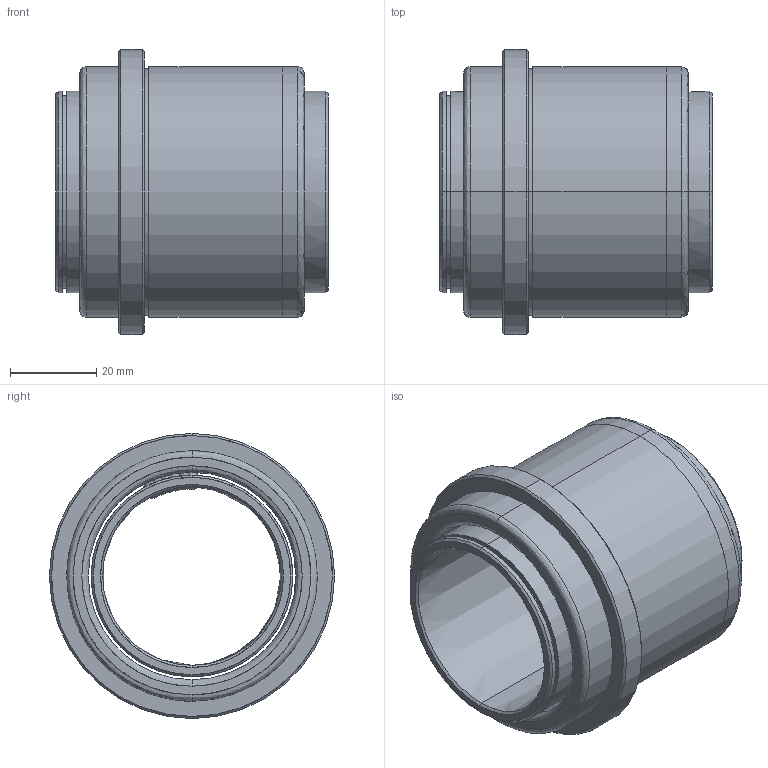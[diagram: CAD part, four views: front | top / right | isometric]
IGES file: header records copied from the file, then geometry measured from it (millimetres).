
Start section: START RECORD GO HERE.
Global section: file name: 732-40.igs; native system: DASSAULT SYSTEMES CATIA V5 R20 - www.3ds.com; preprocessor: CATIA Version 5 Release 20 ; author: Utente; organization: NB04-ASUS; date: 20210110.202139; units: millimetre
Bounding box: 63 x 66 x 66 mm (x, y, z)
Surface area: 38606.1 mm2 (no closed solid volume)
Topology: 0 solids, 0 shells, 74 faces, 434 edges, 434 vertices
Faces by surface type: revolution 64, plane 10
